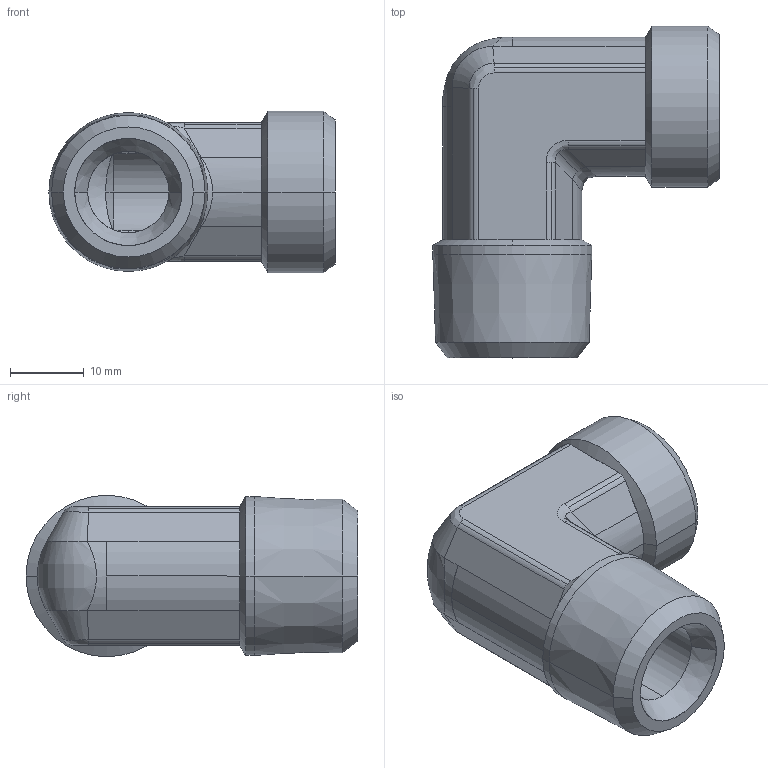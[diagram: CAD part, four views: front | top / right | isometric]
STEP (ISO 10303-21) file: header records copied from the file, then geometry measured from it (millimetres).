
FILE_DESCRIPTION((''),'2;1');
FILE_NAME('102008.stp','2007-10-30T16:29:14',(''),(''),'AutoCAD STEP 2000i','AutoCAD 2000i',', , ');
FILE_SCHEMA(('CONFIG_CONTROL_DESIGN'));
Length unit declared in the file: millimetre
Products named in the file (2): 102008.0; 3090#0
Assembly tree (1 placements, depth 2):
  102008.0
    3090#0
Bounding box: 38.76 x 44.92 x 21.85 mm (x, y, z)
Volume: 12588.4 mm3; surface area: 6656.3 mm2
Topology: 1 solids, 1 shells, 102 faces, 240 edges, 143 vertices
Faces by surface type: cylinder 42, plane 25, cone 21, bspline 14
Entity records: 3844 total; most frequent: CARTESIAN_POINT 1405, DIRECTION 511, ORIENTED_EDGE 480, EDGE_CURVE 240, AXIS2_PLACEMENT_3D 209, VERTEX_POINT 143, CIRCLE 109, EDGE_LOOP 107
